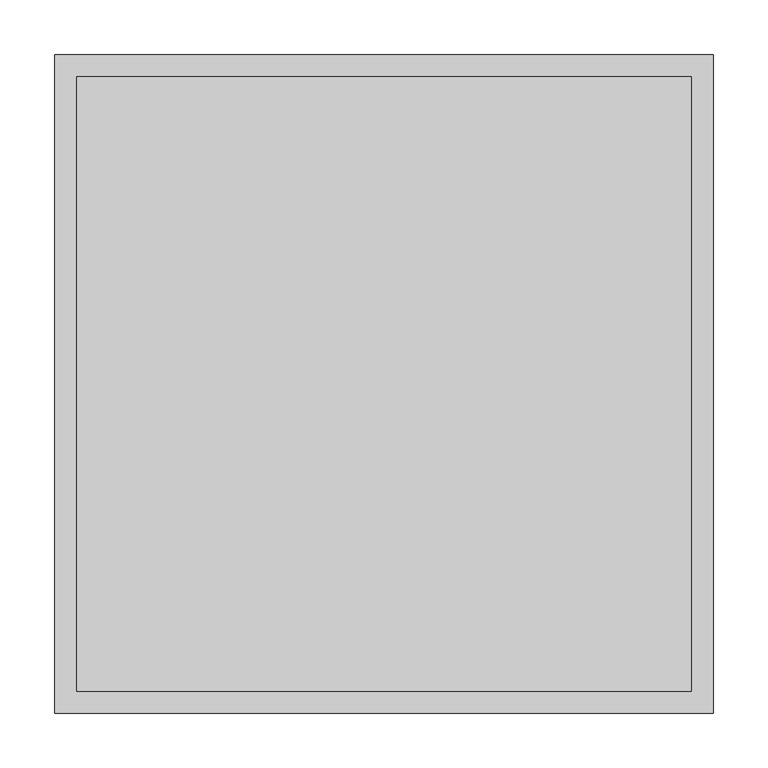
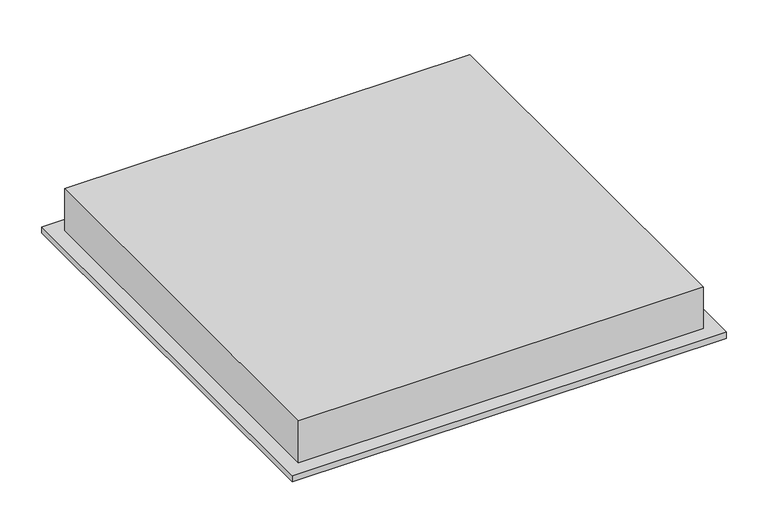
"""IFC4 building model written with IfcOpenShell, lengths in millimetres: light fixture geometry, GENILED_Светильник светодиодный_Rockfon Advanced : Office Rockfon Advanced 600x600x70 100Вт Матовое закаленное стекло."""

from ifc_helpers import new_model, si_unit, origin, place, context, project, spatial, faceted_brep, source, transform, mapped, element, save


def light_fixture_14155fe5(model_context):
    return source(origin(), model_context, "Body", "Brep", [
        faceted_brep([(300.0, 300.0, 9.0), (-300.0, 300.0, 9.0), (-300.0, -300.0, 9.0), (300.0, -300.0, 9.0), (-280.0, 280.0, 9.0), (280.0, 280.0, 9.0), (280.0, -280.0, 9.0), (-280.0, -280.0, 9.0), (300.0, 300.0, 0.0), (300.0, -300.0, 0.0), (-300.0, -300.0, 0.0), (-300.0, 300.0, 0.0), (280.0, 280.0, 0.0), (-280.0, 280.0, 0.0), (-280.0, -280.0, 0.0), (280.0, -280.0, 0.0), (280.0, -280.0, 5.0), (280.0, 280.0, 5.0), (-280.0, -280.0, 5.0), (-280.0, 280.0, 5.0), (-280.0, 280.0, 70.0), (280.0, 280.0, 70.0), (-280.0, -280.0, 70.0), (280.0, -280.0, 70.0)], [[[0, 1, 2, 3], [4, 5, 6, 7]], [[8, 9, 10, 11], [12, 13, 14, 15]], [[1, 0, 8, 11]], [[2, 1, 11, 10]], [[3, 2, 10, 9]], [[0, 3, 9, 8]], [[12, 15, 16, 17]], [[15, 14, 18, 16]], [[14, 13, 19, 18]], [[13, 12, 17, 19]], [[17, 16, 18, 19]], [[5, 4, 20, 21]], [[22, 20, 4, 7]], [[23, 22, 7, 6]], [[5, 21, 23, 6]], [[21, 20, 22, 23]]]),
    ])


if __name__ == "__main__":
    model = new_model("IFC4")
    model_context = context("Model", 3, world=origin())
    ifc_project = project(units=[si_unit("LENGTHUNIT", "METRE", prefix="MILLI")], contexts=[model_context])
    site = spatial("IfcSite", under=ifc_project)
    building = spatial("IfcBuilding", under=site)
    placement = place(None, origin())
    light_fixture_shape = light_fixture_14155fe5(model_context)
    element("IfcLightFixture", 1, ObjectType="GENILED_Светильник светодиодный_Rockfon Advanced : Office Rockfon Advanced 600x600x70 100Вт Матовое закаленное стекло", at=placement, inside=building, context=model_context, shape_type="MappedRepresentation", body=[
        mapped(light_fixture_shape, transform((0.0, 0.0, 0.0), x_axis=(1.0, 0.0, 0.0), y_axis=(0.0, 1.0, 0.0), z_axis=(0.0, 0.0, 1.0))),
    ])
    save(model, "model.ifc")
